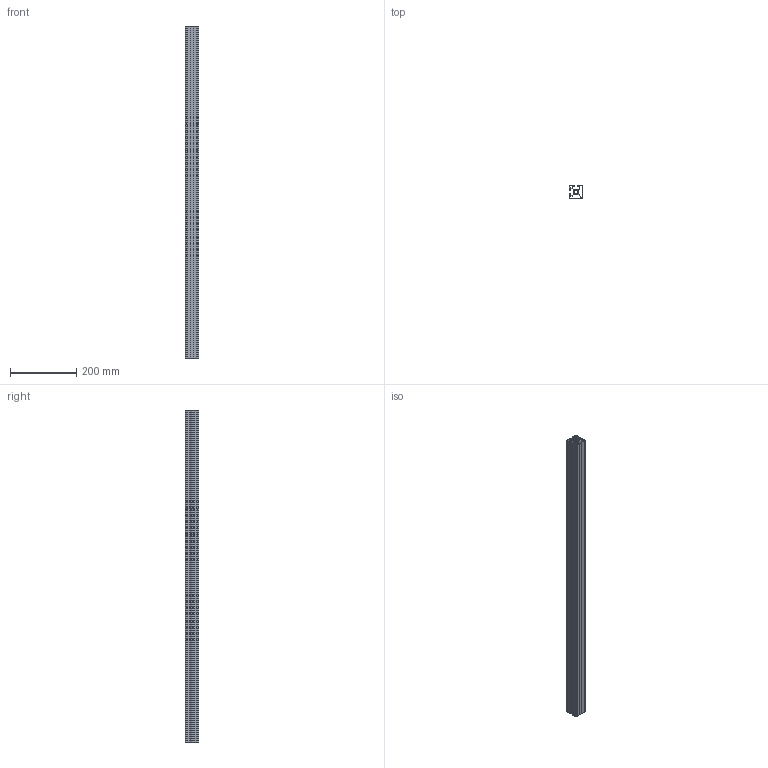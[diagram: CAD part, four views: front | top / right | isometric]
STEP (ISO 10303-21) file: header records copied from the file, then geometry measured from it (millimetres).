
FILE_DESCRIPTION (( 'STEP AP214' ), '1' );
FILE_NAME ('PERFIL 40 x 40 - 2L.STEP', '2022-08-24T17:52:25', ( 'Marcio' ), ( '' ), 'SwSTEP 2.0', 'SolidWorks 2020', '' );
FILE_SCHEMA (( 'AUTOMOTIVE_DESIGN' ));
Length unit declared in the file: millimetre
Products named in the file (1): PERFIL 40 x 40 - 2L
Bounding box: 40 x 40 x 1000 mm (x, y, z)
Volume: 300172.9 mm3; surface area: 555399.2 mm2
Topology: 1 solids, 1 shells, 250 faces, 744 edges, 496 vertices
Faces by surface type: plane 126, cylinder 124
Entity records: 8506 total; most frequent: DIRECTION 1494, CARTESIAN_POINT 1491, ORIENTED_EDGE 1488, EDGE_CURVE 744, AXIS2_PLACEMENT_3D 499, VERTEX_POINT 496, LINE 496, VECTOR 496
